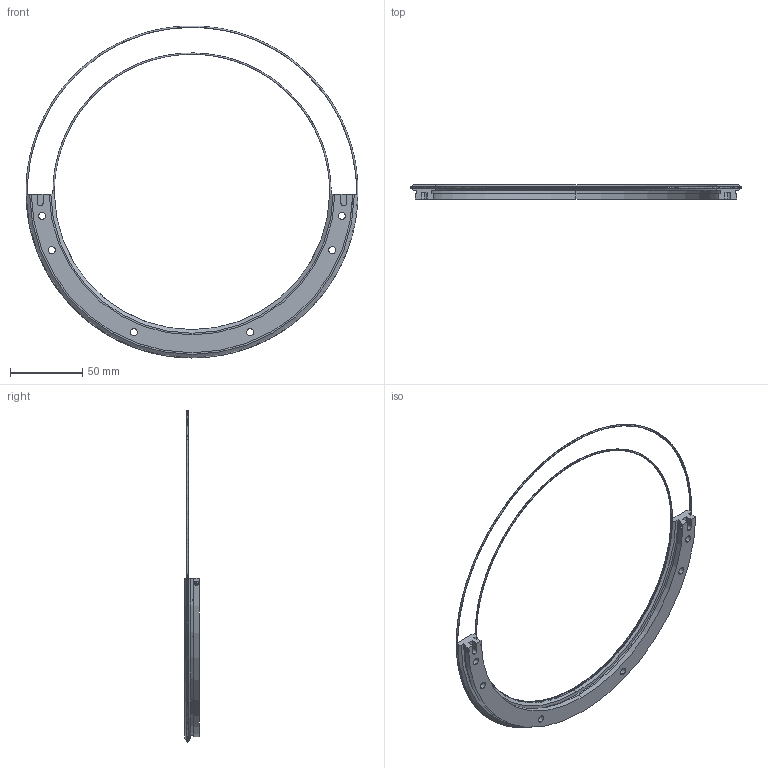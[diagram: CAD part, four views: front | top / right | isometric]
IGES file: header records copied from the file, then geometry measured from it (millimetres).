
Start section: 3D InterOp IGES (v. 2019 1.0.2), Spatial Corp. Copyright (c) 1999-2017.
Global section: file name: TR20 210 R180.igs; native system: Spatial Corp.; preprocessor: 3D InterOp GENERIC/IGES 3.0; author: Noname; organization: Noname; date: 20220628.092358; units: millimetre
Bounding box: 229.63 x 10 x 229.63 mm (x, y, z)
Surface area: 30414.5 mm2 (no closed solid volume)
Topology: 0 solids, 0 shells, 108 faces, 558 edges, 553 vertices
Faces by surface type: revolution 56, extrusion 52
